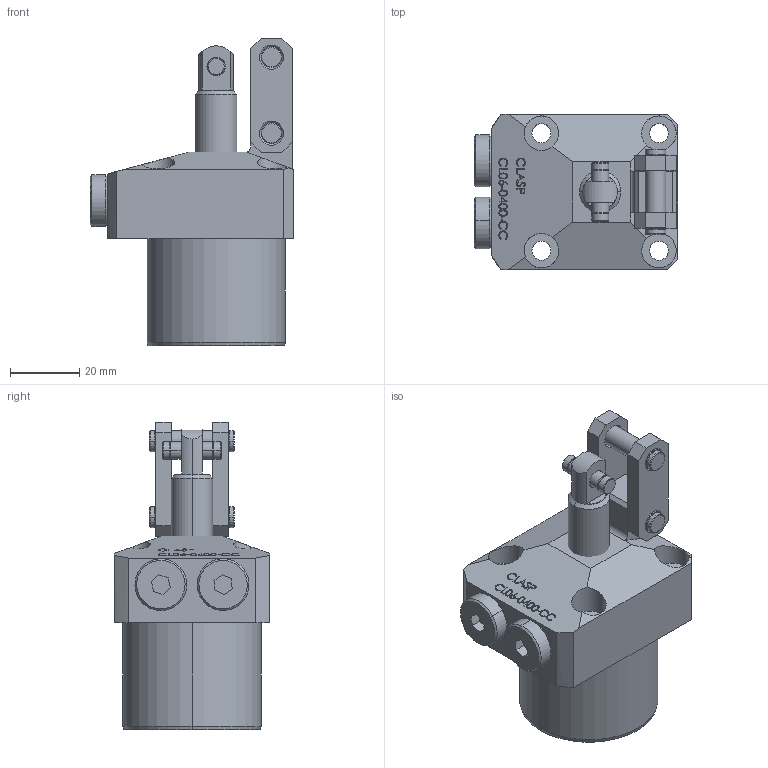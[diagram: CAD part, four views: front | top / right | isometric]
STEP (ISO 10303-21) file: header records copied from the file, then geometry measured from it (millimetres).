
FILE_DESCRIPTION (( 'STEP AP203' ), '1' );
FILE_NAME ('CLO6-0400 cc.STEP', '2022-07-05T17:19:03', ( '' ), ( '' ), 'SwSTEP 2.0', 'SolidWorks 2017', '' );
FILE_SCHEMA (( 'CONFIG_CONTROL_DESIGN' ));
Length unit declared in the file: millimetre
Products named in the file (7): CLO6-0400 Part3 cc; CLO6-0400 Part2 cc; CLO6-0400 Part7 cc; CLO6-0400 Part5 cc; CLO6-0400 cc; CLO6-0400 Part6 cc; CLO6-0400 Part1 cc
Assembly tree (9 placements, depth 2):
  CLO6-0400 cc
    CLO6-0400 Part1 cc
    CLO6-0400 Part3 cc
    CLO6-0400 Part2 cc  x2
    CLO6-0400 Part5 cc  x2
    CLO6-0400 Part6 cc  x2
    CLO6-0400 Part7 cc
Bounding box: 59 x 45 x 89 mm (x, y, z)
Volume: 98488.9 mm3; surface area: 24211.9 mm2
Topology: 9 solids, 9 shells, 416 faces, 1007 edges, 652 vertices
Faces by surface type: plane 180, bspline 102, cylinder 86, cone 48
Entity records: 17894 total; most frequent: CARTESIAN_POINT 9170, ORIENTED_EDGE 1762, DIRECTION 1349, EDGE_CURVE 881, VERTEX_POINT 576, VECTOR 499, LINE 499, AXIS2_PLACEMENT_3D 425
